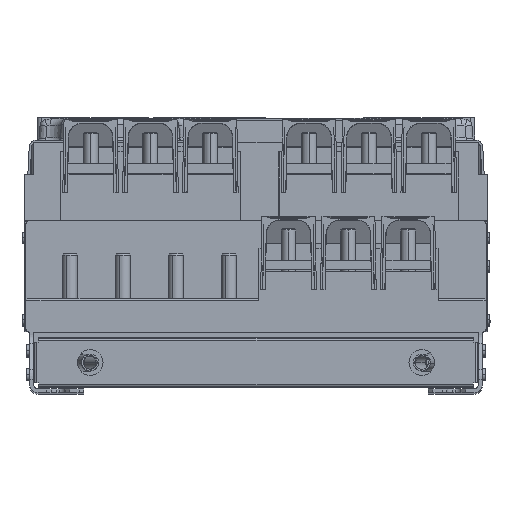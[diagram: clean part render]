
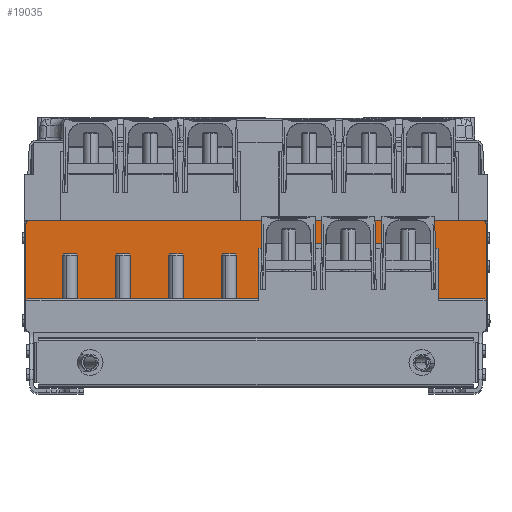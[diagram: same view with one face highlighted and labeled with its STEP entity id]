
A CAD part, top view. The second image highlights one B-rep face of the part: STEP entity #19035.
In plain terms, the highlighted planar face has unit normal (0, 0, 1).
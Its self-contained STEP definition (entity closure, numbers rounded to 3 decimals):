
#882 = LINE ( 'NONE', #93356, #85704 ) ;
#987 = VERTEX_POINT ( 'NONE', #90640 ) ;
#1049 = ORIENTED_EDGE ( 'NONE', *, *, #14241, .F. ) ;
#1253 = LINE ( 'NONE', #30013, #86931 ) ;
#1569 = VERTEX_POINT ( 'NONE', #84859 ) ;
#4853 = CARTESIAN_POINT ( 'NONE',  ( 247., 33., 179. ) ) ;
#4866 = VECTOR ( 'NONE', #59163, 1000. ) ;
#5792 = EDGE_CURVE ( 'NONE', #1569, #64460, #52749, .T. ) ;
#6196 = CARTESIAN_POINT ( 'NONE',  ( 190.479, 89., 179. ) ) ;
#6315 = LINE ( 'NONE', #35080, #6725 ) ;
#6725 = VECTOR ( 'NONE', #38780, 1000. ) ;
#8495 = ORIENTED_EDGE ( 'NONE', *, *, #18445, .F. ) ;
#10262 = DIRECTION ( 'NONE',  ( 0.707, 0.707, 0. ) ) ;
#10906 = AXIS2_PLACEMENT_3D ( 'NONE', #86771, #37210, #28749 ) ;
#12915 = DIRECTION ( 'NONE',  ( 0.707, -0.707, 0. ) ) ;
#13050 = VERTEX_POINT ( 'NONE', #84660 ) ;
#13238 = CARTESIAN_POINT ( 'NONE',  ( -247., 33., 179. ) ) ;
#13383 = ORIENTED_EDGE ( 'NONE', *, *, #45171, .T. ) ;
#13499 = VECTOR ( 'NONE', #38818, 1000. ) ;
#13682 = VECTOR ( 'NONE', #83053, 1000. ) ;
#13851 = EDGE_CURVE ( 'NONE', #987, #82844, #882, .T. ) ;
#14079 = ORIENTED_EDGE ( 'NONE', *, *, #65815, .F. ) ;
#14241 = EDGE_CURVE ( 'NONE', #54754, #27864, #38357, .T. ) ;
#14920 = ORIENTED_EDGE ( 'NONE', *, *, #20281, .T. ) ;
#15658 = CARTESIAN_POINT ( 'NONE',  ( -247., 35., 179. ) ) ;
#15708 = ORIENTED_EDGE ( 'NONE', *, *, #24799, .F. ) ;
#15946 = CARTESIAN_POINT ( 'NONE',  ( 247., 115., 179. ) ) ;
#18002 = ORIENTED_EDGE ( 'NONE', *, *, #56886, .F. ) ;
#18445 = EDGE_CURVE ( 'NONE', #81928, #39504, #32557, .T. ) ;
#19035 = ADVANCED_FACE ( 'NONE', ( #25685 ), #77121, .T. ) ;
#19206 = CARTESIAN_POINT ( 'NONE',  ( 195.511, 35., 179. ) ) ;
#19342 = ORIENTED_EDGE ( 'NONE', *, *, #37815, .T. ) ;
#19552 = VECTOR ( 'NONE', #93075, 1000. ) ;
#20281 = EDGE_CURVE ( 'NONE', #58453, #68738, #37942, .T. ) ;
#20319 = DIRECTION ( 'NONE',  ( 0., -1., 0. ) ) ;
#20469 = AXIS2_PLACEMENT_3D ( 'NONE', #30394, #87966, #80886 ) ;
#21816 = LINE ( 'NONE', #15658, #19552 ) ;
#24799 = EDGE_CURVE ( 'NONE', #82200, #89677, #6315, .T. ) ;
#25685 = FACE_OUTER_BOUND ( 'NONE', #76196, .T. ) ;
#27864 = VERTEX_POINT ( 'NONE', #63277 ) ;
#28749 = DIRECTION ( 'NONE',  ( 1., 0., 0. ) ) ;
#29007 = ORIENTED_EDGE ( 'NONE', *, *, #5792, .F. ) ;
#30013 = CARTESIAN_POINT ( 'NONE',  ( 2.806, 89., 179. ) ) ;
#30393 = CARTESIAN_POINT ( 'NONE',  ( 2.806, 35., 179. ) ) ;
#30394 = CARTESIAN_POINT ( 'NONE',  ( 243., 115., 179. ) ) ;
#32557 = LINE ( 'NONE', #53777, #13682 ) ;
#33237 = CARTESIAN_POINT ( 'NONE',  ( -247., 31., 179. ) ) ;
#34031 = DIRECTION ( 'NONE',  ( 1., 0., 0. ) ) ;
#34199 = CARTESIAN_POINT ( 'NONE',  ( -243., 119., 179. ) ) ;
#34966 = LINE ( 'NONE', #72210, #87320 ) ;
#35080 = CARTESIAN_POINT ( 'NONE',  ( -247., 1., 179. ) ) ;
#35890 = LINE ( 'NONE', #6196, #73717 ) ;
#37032 = CARTESIAN_POINT ( 'NONE',  ( 2.806, 35., 179. ) ) ;
#37210 = DIRECTION ( 'NONE',  ( 0., 0., -1. ) ) ;
#37565 = DIRECTION ( 'NONE',  ( 1., 0., 0. ) ) ;
#37815 = EDGE_CURVE ( 'NONE', #13050, #51590, #34966, .T. ) ;
#37828 = EDGE_CURVE ( 'NONE', #82844, #13050, #35890, .T. ) ;
#37942 = LINE ( 'NONE', #30393, #4866 ) ;
#38357 = LINE ( 'NONE', #69001, #13499 ) ;
#38780 = DIRECTION ( 'NONE',  ( 0., 1., 0. ) ) ;
#38800 = CARTESIAN_POINT ( 'NONE',  ( 5.803, 89., 179. ) ) ;
#38818 = DIRECTION ( 'NONE',  ( 1., 0., 0. ) ) ;
#39259 = EDGE_CURVE ( 'NONE', #82200, #75569, #46097, .T. ) ;
#39504 = VERTEX_POINT ( 'NONE', #38800 ) ;
#42132 = CARTESIAN_POINT ( 'NONE',  ( 5.894, 94.2, 179. ) ) ;
#42249 = CARTESIAN_POINT ( 'NONE',  ( -245., 35., 179. ) ) ;
#42397 = EDGE_CURVE ( 'NONE', #68738, #39504, #1253, .T. ) ;
#42511 = DIRECTION ( 'NONE',  ( 1., 0., 0. ) ) ;
#44024 = ORIENTED_EDGE ( 'NONE', *, *, #85898, .T. ) ;
#44345 = CARTESIAN_POINT ( 'NONE',  ( 2.806, 89., 179. ) ) ;
#45171 = EDGE_CURVE ( 'NONE', #85686, #64460, #68145, .T. ) ;
#45517 = EDGE_CURVE ( 'NONE', #75569, #58453, #69435, .T. ) ;
#46097 = LINE ( 'NONE', #74899, #49795 ) ;
#48191 = VECTOR ( 'NONE', #34031, 1000. ) ;
#49603 = VECTOR ( 'NONE', #12915, 1000. ) ;
#49795 = VECTOR ( 'NONE', #10262, 1000. ) ;
#51590 = VERTEX_POINT ( 'NONE', #19206 ) ;
#52202 = CARTESIAN_POINT ( 'NONE',  ( 192.514, 89., 179. ) ) ;
#52382 = ORIENTED_EDGE ( 'NONE', *, *, #63071, .T. ) ;
#52749 = LINE ( 'NONE', #15946, #67749 ) ;
#53144 = LINE ( 'NONE', #81943, #67797 ) ;
#53777 = CARTESIAN_POINT ( 'NONE',  ( 5.351, 63.129, 179. ) ) ;
#54461 = DIRECTION ( 'NONE',  ( 0., 0., 1. ) ) ;
#54754 = VERTEX_POINT ( 'NONE', #34199 ) ;
#56036 = ORIENTED_EDGE ( 'NONE', *, *, #42397, .T. ) ;
#56886 = EDGE_CURVE ( 'NONE', #27864, #1569, #58094, .T. ) ;
#57484 = DIRECTION ( 'NONE',  ( 0.017, -1., 0. ) ) ;
#58094 = CIRCLE ( 'NONE', #20469, 4. ) ;
#58453 = VERTEX_POINT ( 'NONE', #37032 ) ;
#59163 = DIRECTION ( 'NONE',  ( 0., 1., 0. ) ) ;
#59992 = CARTESIAN_POINT ( 'NONE',  ( -247., 35., 179. ) ) ;
#61034 = CARTESIAN_POINT ( 'NONE',  ( 245., 35., 179. ) ) ;
#63071 = EDGE_CURVE ( 'NONE', #81928, #987, #53144, .T. ) ;
#63277 = CARTESIAN_POINT ( 'NONE',  ( 243., 119., 179. ) ) ;
#64460 = VERTEX_POINT ( 'NONE', #4853 ) ;
#65815 = EDGE_CURVE ( 'NONE', #89677, #54754, #74214, .T. ) ;
#67749 = VECTOR ( 'NONE', #79689, 1000. ) ;
#67797 = VECTOR ( 'NONE', #74857, 1000. ) ;
#68145 = LINE ( 'NONE', #61034, #49603 ) ;
#68620 = DIRECTION ( 'NONE',  ( 1., 0., 0. ) ) ;
#68738 = VERTEX_POINT ( 'NONE', #44345 ) ;
#69001 = CARTESIAN_POINT ( 'NONE',  ( -243., 119., 179. ) ) ;
#69435 = LINE ( 'NONE', #59992, #48191 ) ;
#72110 = CARTESIAN_POINT ( 'NONE',  ( -247., 115., 179. ) ) ;
#72210 = CARTESIAN_POINT ( 'NONE',  ( 195.511, 89., 179. ) ) ;
#73717 = VECTOR ( 'NONE', #42511, 1000. ) ;
#74214 = CIRCLE ( 'NONE', #10906, 4. ) ;
#74857 = DIRECTION ( 'NONE',  ( 1., 0., 0. ) ) ;
#74899 = CARTESIAN_POINT ( 'NONE',  ( -245., 35., 179. ) ) ;
#75569 = VERTEX_POINT ( 'NONE', #42249 ) ;
#76196 = EDGE_LOOP ( 'NONE', ( #8495, #52382, #80764, #79271, #19342, #44024, #13383, #29007, #18002, #1049, #14079, #15708, #91080, #79901, #14920, #56036 ) ) ;
#77121 = PLANE ( 'NONE',  #78552 ) ;
#78552 = AXIS2_PLACEMENT_3D ( 'NONE', #33237, #54461, #68620 ) ;
#79271 = ORIENTED_EDGE ( 'NONE', *, *, #37828, .T. ) ;
#79689 = DIRECTION ( 'NONE',  ( 0., -1., 0. ) ) ;
#79901 = ORIENTED_EDGE ( 'NONE', *, *, #45517, .T. ) ;
#80764 = ORIENTED_EDGE ( 'NONE', *, *, #13851, .T. ) ;
#80886 = DIRECTION ( 'NONE',  ( 1., 0., 0. ) ) ;
#81928 = VERTEX_POINT ( 'NONE', #42132 ) ;
#81943 = CARTESIAN_POINT ( 'NONE',  ( -44.533, 94.2, 179. ) ) ;
#82200 = VERTEX_POINT ( 'NONE', #13238 ) ;
#82844 = VERTEX_POINT ( 'NONE', #52202 ) ;
#83053 = DIRECTION ( 'NONE',  ( -0.017, -1., 0. ) ) ;
#84660 = CARTESIAN_POINT ( 'NONE',  ( 195.511, 89., 179. ) ) ;
#84859 = CARTESIAN_POINT ( 'NONE',  ( 247., 115., 179. ) ) ;
#85686 = VERTEX_POINT ( 'NONE', #87163 ) ;
#85704 = VECTOR ( 'NONE', #57484, 1000. ) ;
#85898 = EDGE_CURVE ( 'NONE', #51590, #85686, #21816, .T. ) ;
#86771 = CARTESIAN_POINT ( 'NONE',  ( -243., 115., 179. ) ) ;
#86931 = VECTOR ( 'NONE', #37565, 1000. ) ;
#87163 = CARTESIAN_POINT ( 'NONE',  ( 245., 35., 179. ) ) ;
#87320 = VECTOR ( 'NONE', #20319, 1000. ) ;
#87966 = DIRECTION ( 'NONE',  ( 0., 0., -1. ) ) ;
#89677 = VERTEX_POINT ( 'NONE', #72110 ) ;
#90640 = CARTESIAN_POINT ( 'NONE',  ( 192.423, 94.2, 179. ) ) ;
#91080 = ORIENTED_EDGE ( 'NONE', *, *, #39259, .T. ) ;
#93075 = DIRECTION ( 'NONE',  ( 1., 0., 0. ) ) ;
#93356 = CARTESIAN_POINT ( 'NONE',  ( 192.965, 63.129, 179. ) ) ;
